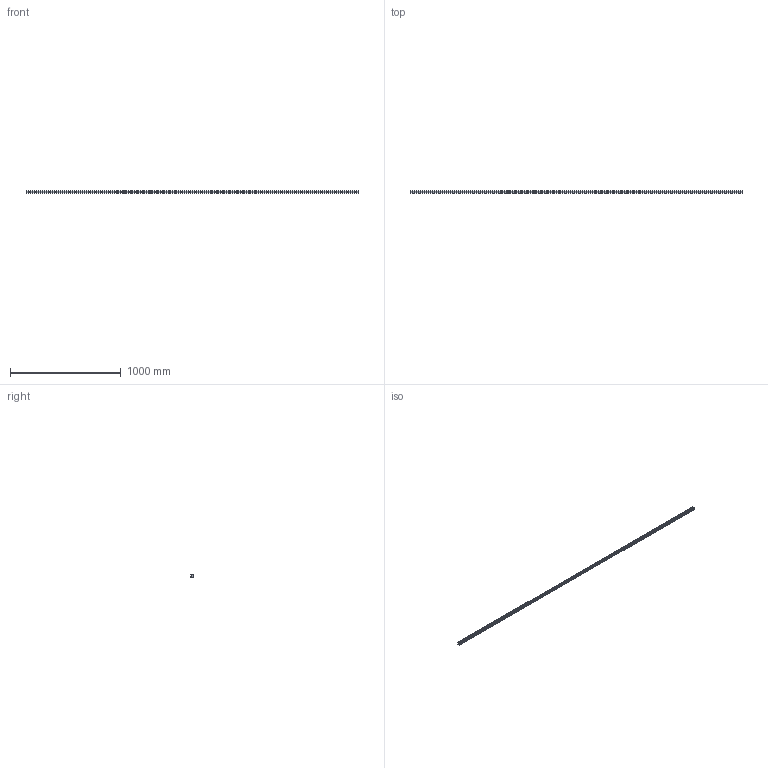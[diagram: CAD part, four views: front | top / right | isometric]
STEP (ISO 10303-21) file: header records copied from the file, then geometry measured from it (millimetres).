
FILE_DESCRIPTION (( 'STEP AP203' ), '1' );
FILE_NAME ('L1018.25R-3000.step', '2023-08-06T10:45:15', ( '' ), ( '' ), 'SwSTEP 2.0', 'SolidWorks 2019', '' );
FILE_SCHEMA (( 'CONFIG_CONTROL_DESIGN' ));
Length unit declared in the file: millimetre
Products named in the file (1): L1018.25R-3000
Bounding box: 3000 x 21.8 x 25 mm (x, y, z)
Volume: 1247664.3 mm3; surface area: 298745.2 mm2
Topology: 1 solids, 1 shells, 479 faces, 1081 edges, 604 vertices
Faces by surface type: cylinder 203, cone 200, plane 76
Entity records: 12698 total; most frequent: DIRECTION 2447, CARTESIAN_POINT 2065, ORIENTED_EDGE 1962, AXIS2_PLACEMENT_3D 986, EDGE_CURVE 981, VERTEX_POINT 604, EDGE_LOOP 579, CIRCLE 506
